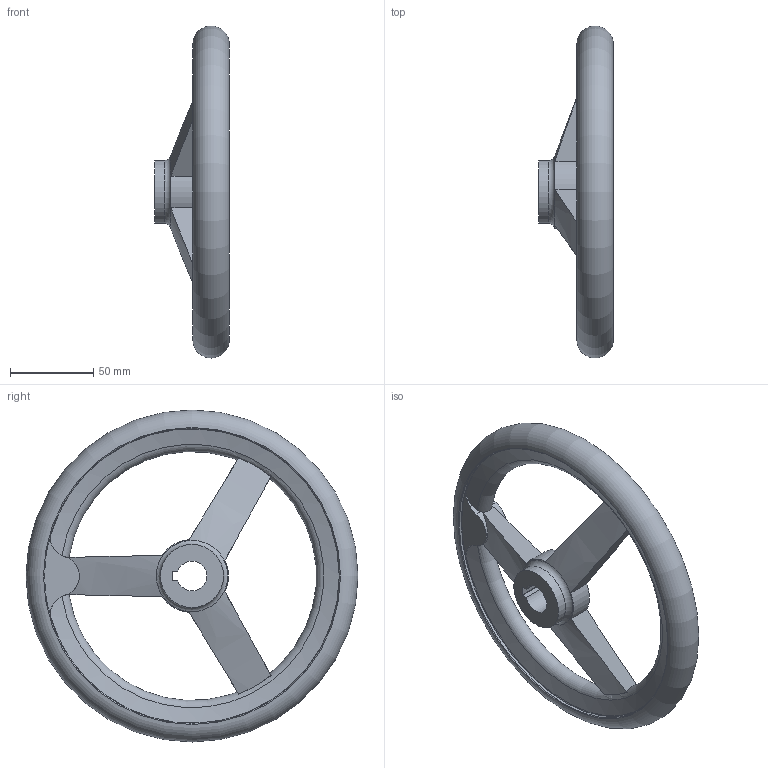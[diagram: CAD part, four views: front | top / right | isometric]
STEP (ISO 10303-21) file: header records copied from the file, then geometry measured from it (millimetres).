
FILE_DESCRIPTION( ( 'STEP AP203' ), '1' );
FILE_NAME( 'C:/Temp/Ganter_Step_05_03_2020/data/1_3/din_950/din_950_k/din_950_k_a/Handwheel DIN 950-AL-200-K18-A.stp', '2020-03-05T10:30:37', ( 'License CC BY-ND 4.0' ), ( 'CADENAS' ), ' ', 'PARTsolutions', ' ' );
FILE_SCHEMA( ( 'CONFIG_CONTROL_DESIGN' ) );
Length unit declared in the file: millimetre
Products named in the file (1): _Handwheel DIN 950-AL-200-K18-A
Bounding box: 45 x 200 x 200 mm (x, y, z)
Volume: 275572 mm3; surface area: 59112.5 mm2
Topology: 1 solids, 1 shells, 47 faces, 137 edges, 88 vertices
Faces by surface type: cylinder 16, torus 14, plane 13, cone 4
Full cylindrical faces by diameter (mm): 38 x2, 178 x2
Entity records: 1927 total; most frequent: CARTESIAN_POINT 756, ORIENTED_EDGE 240, DIRECTION 214, EDGE_CURVE 120, AXIS2_PLACEMENT_3D 94, VERTEX_POINT 85, EDGE_LOOP 64, FACE_OUTER_BOUND 58
